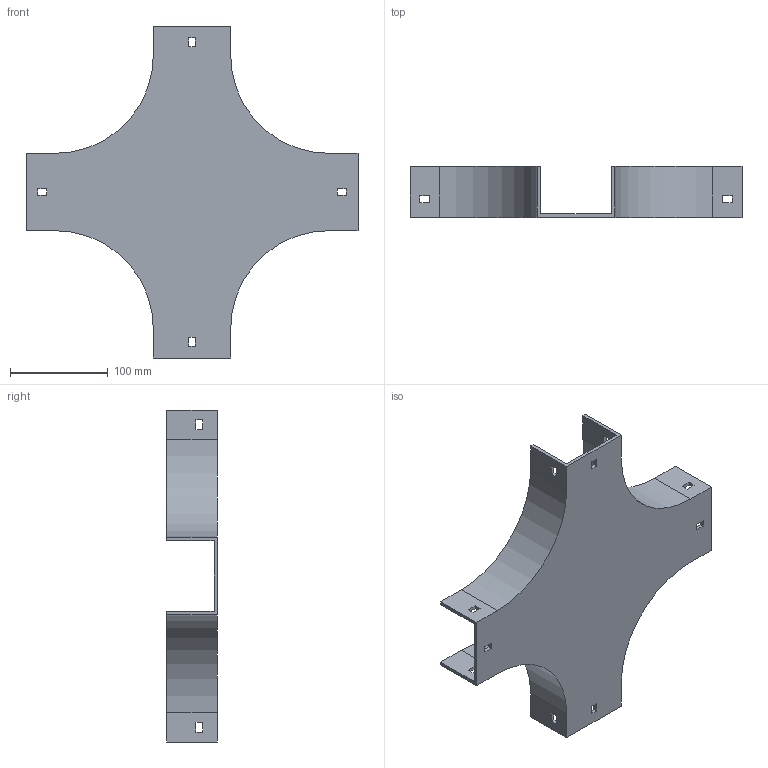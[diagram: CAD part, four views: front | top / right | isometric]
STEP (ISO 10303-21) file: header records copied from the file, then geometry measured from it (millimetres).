
FILE_DESCRIPTION (( 'STEP AP214' ), '1' );
FILE_NAME ('17F1B075.step', '2025-02-21T13:05:32', ( '' ), ( '' ), 'SwSTEP 2.0', 'SolidWorks 2023', '' );
FILE_SCHEMA (( 'AUTOMOTIVE_DESIGN' ));
Length unit declared in the file: millimetre
Products named in the file (1): 17F1B075
Bounding box: 339 x 52 x 339 mm (x, y, z)
Volume: 342152.3 mm3; surface area: 202404.7 mm2
Topology: 1 solids, 1 shells, 82 faces, 240 edges, 160 vertices
Faces by surface type: plane 74, cylinder 8
Entity records: 2751 total; most frequent: CARTESIAN_POINT 483, ORIENTED_EDGE 480, DIRECTION 422, EDGE_CURVE 240, LINE 224, VECTOR 224, VERTEX_POINT 160, EDGE_LOOP 106
